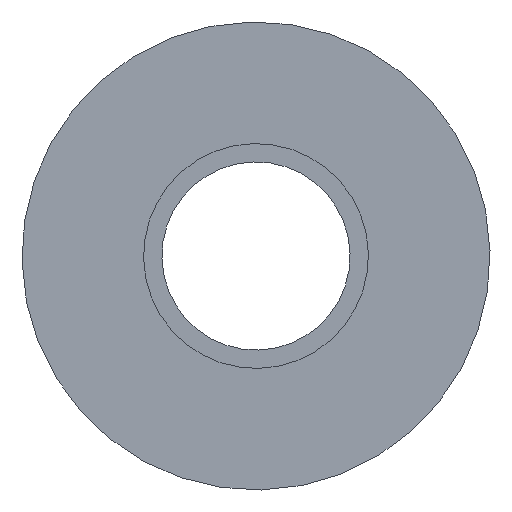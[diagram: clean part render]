
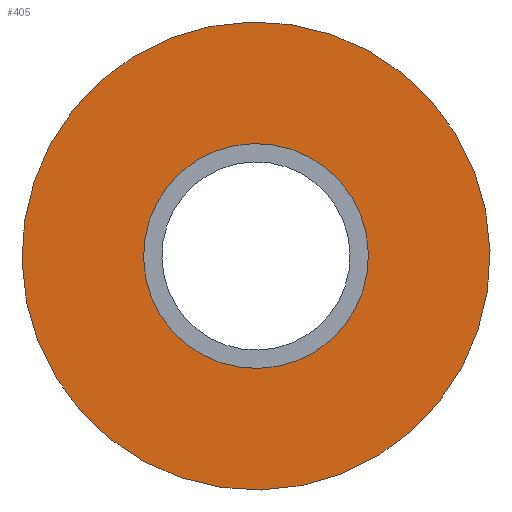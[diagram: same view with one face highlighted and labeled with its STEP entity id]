
A CAD part, left-side view. The second image highlights one B-rep face of the part: STEP entity #405.
In plain terms, the highlighted planar face has unit normal (-1, 0, 0).
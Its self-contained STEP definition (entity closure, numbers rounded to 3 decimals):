
#216=CARTESIAN_POINT('Vertex',(0.5,-10.75,-5.873)) ;
#223=CARTESIAN_POINT('Vertex',(0.5,10.75,5.873)) ;
#226=CARTESIAN_POINT('Axis2P3D Location',(0.5,0.,0.)) ;
#238=CARTESIAN_POINT('Axis2P3D Location',(0.5,0.,0.)) ;
#358=CARTESIAN_POINT('Vertex',(0.5,-22.378,-12.225)) ;
#361=CARTESIAN_POINT('Axis2P3D Location',(0.5,0.,0.)) ;
#365=CARTESIAN_POINT('Vertex',(0.5,22.378,12.225)) ;
#380=CARTESIAN_POINT('Axis2P3D Location',(0.5,0.,0.)) ;
#392=CARTESIAN_POINT('Axis2P3D Location',(0.5,19.25,0.)) ;
#227=DIRECTION('Axis2P3D Direction',(1.,0.,0.)) ;
#239=DIRECTION('Axis2P3D Direction',(1.,0.,0.)) ;
#362=DIRECTION('Axis2P3D Direction',(1.,0.,0.)) ;
#381=DIRECTION('Axis2P3D Direction',(1.,0.,0.)) ;
#393=DIRECTION('Axis2P3D Direction',(1.,0.,0.)) ;
#394=DIRECTION('Axis2P3D XDirection',(0.,1.,0.)) ;
#228=AXIS2_PLACEMENT_3D('Circle Axis2P3D',#226,#227,$) ;
#240=AXIS2_PLACEMENT_3D('Circle Axis2P3D',#238,#239,$) ;
#363=AXIS2_PLACEMENT_3D('Circle Axis2P3D',#361,#362,$) ;
#382=AXIS2_PLACEMENT_3D('Circle Axis2P3D',#380,#381,$) ;
#395=AXIS2_PLACEMENT_3D('Plane Axis2P3D',#392,#393,#394) ;
#398=ORIENTED_EDGE('',*,*,#367,.F.) ;
#399=ORIENTED_EDGE('',*,*,#384,.F.) ;
#402=ORIENTED_EDGE('',*,*,#242,.F.) ;
#403=ORIENTED_EDGE('',*,*,#230,.F.) ;
#404=FACE_BOUND('',#401,.T.) ;
#405=ADVANCED_FACE('PartBody',(#400,#404),#396,.F.) ;
#229=CIRCLE('generated circle',#228,12.25) ;
#241=CIRCLE('generated circle',#240,12.25) ;
#364=CIRCLE('generated circle',#363,25.5) ;
#383=CIRCLE('generated circle',#382,25.5) ;
#230=EDGE_CURVE('',#224,#217,#229,.F.) ;
#242=EDGE_CURVE('',#217,#224,#241,.F.) ;
#367=EDGE_CURVE('',#359,#366,#364,.T.) ;
#384=EDGE_CURVE('',#366,#359,#383,.T.) ;
#397=EDGE_LOOP('',(#398,#399)) ;
#401=EDGE_LOOP('',(#402,#403)) ;
#400=FACE_OUTER_BOUND('',#397,.T.) ;
#396=PLANE('',#395) ;
#217=VERTEX_POINT('',#216) ;
#224=VERTEX_POINT('',#223) ;
#359=VERTEX_POINT('',#358) ;
#366=VERTEX_POINT('',#365) ;
